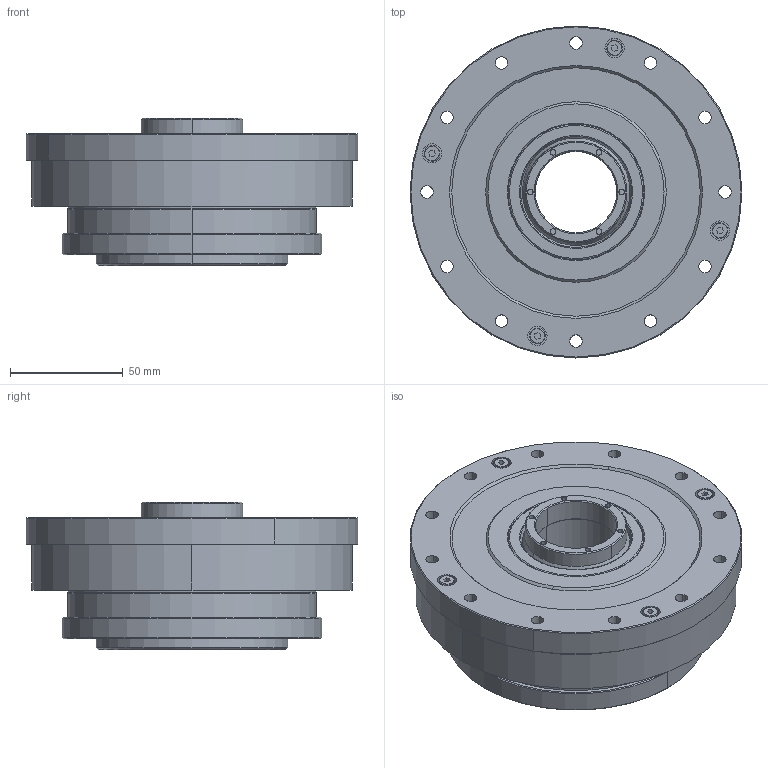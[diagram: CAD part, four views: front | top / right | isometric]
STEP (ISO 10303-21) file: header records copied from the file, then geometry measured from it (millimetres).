
FILE_DESCRIPTION (( 'STEP AP203' ), '1' );
FILE_NAME ('BHS-32-XXX-U-¢ó.STEP', '2019-01-15T05:39:24', ( 'User' ), ( 'China' ), 'SwSTEP 2.0', 'SolidWorks 2015', '' );
FILE_SCHEMA (( 'CONFIG_CONTROL_DESIGN' ));
Length unit declared in the file: millimetre
Products named in the file (1): BHS-32-XXX-U-ｋ
Bounding box: 147 x 147 x 65.5 mm (x, y, z)
Surface area: 82870 mm2 (no closed solid volume)
Topology: 0 solids, 19 shells, 296 faces, 830 edges, 548 vertices
Faces by surface type: cylinder 144, plane 78, cone 58, torus 16
Entity records: 9717 total; most frequent: DIRECTION 1880, CARTESIAN_POINT 1667, ORIENTED_EDGE 1376, EDGE_CURVE 822, AXIS2_PLACEMENT_3D 761, VERTEX_POINT 548, CIRCLE 464, EDGE_LOOP 396
